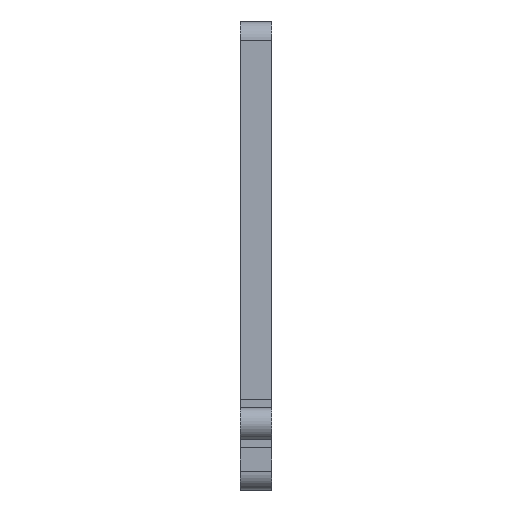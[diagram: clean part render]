
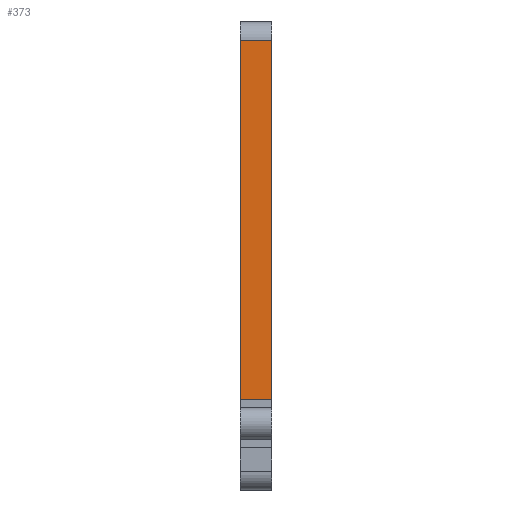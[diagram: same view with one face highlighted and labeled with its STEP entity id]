
A CAD part, left-side view. The second image highlights one B-rep face of the part: STEP entity #373.
In plain terms, the highlighted planar face has unit normal (-1, 0, 0).
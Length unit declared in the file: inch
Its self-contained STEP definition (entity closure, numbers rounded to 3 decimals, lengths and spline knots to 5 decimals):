
#5 = VERTEX_POINT ( 'NONE', #606 ) ;
#84 = EDGE_CURVE ( 'NONE', #305, #5, #288, .T. ) ;
#114 = DIRECTION ( 'NONE',  ( 0., 0., -1. ) ) ;
#119 = ORIENTED_EDGE ( 'NONE', *, *, #84, .T. ) ;
#123 = CARTESIAN_POINT ( 'NONE',  ( 0.34938, 0.25, 3. ) ) ;
#169 = CARTESIAN_POINT ( 'NONE',  ( 0.34937, 0.25, 0. ) ) ;
#196 = ORIENTED_EDGE ( 'NONE', *, *, #287, .F. ) ;
#213 = VECTOR ( 'NONE', #818, 39.37008 ) ;
#287 = EDGE_CURVE ( 'NONE', #521, #575, #385, .T. ) ;
#288 = LINE ( 'NONE', #588, #213 ) ;
#289 = ORIENTED_EDGE ( 'NONE', *, *, #964, .T. ) ;
#301 = ORIENTED_EDGE ( 'NONE', *, *, #634, .F. ) ;
#305 = VERTEX_POINT ( 'NONE', #404 ) ;
#329 = CARTESIAN_POINT ( 'NONE',  ( 0.34937, 0., 0. ) ) ;
#370 = AXIS2_PLACEMENT_3D ( 'NONE', #625, #925, #114 ) ;
#373 = ADVANCED_FACE ( 'NONE', ( #469 ), #474, .F. ) ;
#385 = LINE ( 'NONE', #676, #462 ) ;
#404 = CARTESIAN_POINT ( 'NONE',  ( 0.34937, 0.25, 0.1875 ) ) ;
#462 = VECTOR ( 'NONE', #605, 39.37008 ) ;
#469 = FACE_OUTER_BOUND ( 'NONE', #675, .T. ) ;
#474 = PLANE ( 'NONE',  #370 ) ;
#521 = VERTEX_POINT ( 'NONE', #123 ) ;
#542 = LINE ( 'NONE', #329, #563 ) ;
#551 = LINE ( 'NONE', #169, #802 ) ;
#563 = VECTOR ( 'NONE', #639, 39.37008 ) ;
#575 = VERTEX_POINT ( 'NONE', #864 ) ;
#588 = CARTESIAN_POINT ( 'NONE',  ( 0.34937, 0.25, 0.1875 ) ) ;
#605 = DIRECTION ( 'NONE',  ( 0., -1., 0. ) ) ;
#606 = CARTESIAN_POINT ( 'NONE',  ( 0.34937, 0., 0.1875 ) ) ;
#625 = CARTESIAN_POINT ( 'NONE',  ( 0.34937, 0.25, 0. ) ) ;
#630 = DIRECTION ( 'NONE',  ( 0., 0., 1. ) ) ;
#634 = EDGE_CURVE ( 'NONE', #305, #521, #551, .T. ) ;
#639 = DIRECTION ( 'NONE',  ( 0., 0., 1. ) ) ;
#675 = EDGE_LOOP ( 'NONE', ( #289, #196, #301, #119 ) ) ;
#676 = CARTESIAN_POINT ( 'NONE',  ( 0.34938, 0.25, 3. ) ) ;
#802 = VECTOR ( 'NONE', #630, 39.37008 ) ;
#818 = DIRECTION ( 'NONE',  ( 0., -1., 0. ) ) ;
#864 = CARTESIAN_POINT ( 'NONE',  ( 0.34938, 0., 3. ) ) ;
#925 = DIRECTION ( 'NONE',  ( 1., 0., 0. ) ) ;
#964 = EDGE_CURVE ( 'NONE', #5, #575, #542, .T. ) ;
